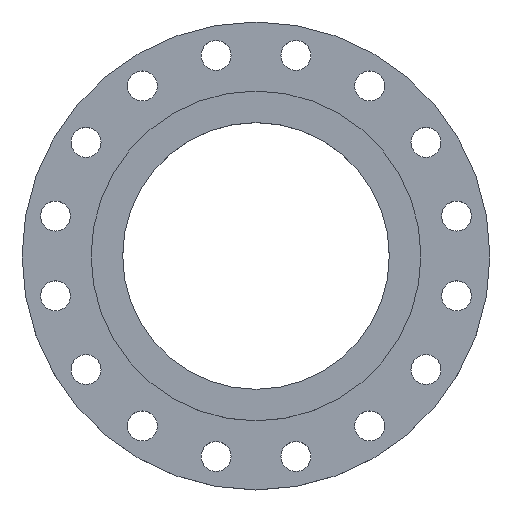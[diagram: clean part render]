
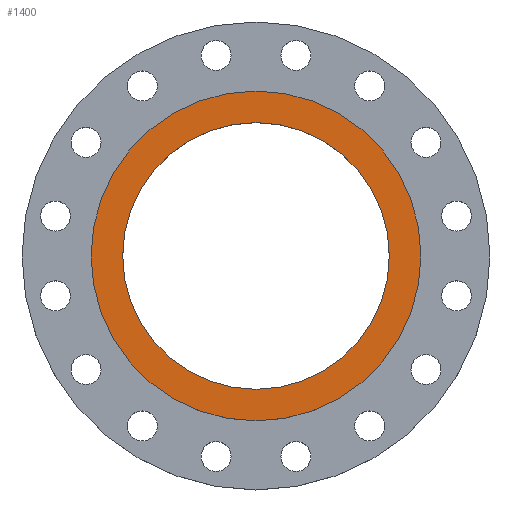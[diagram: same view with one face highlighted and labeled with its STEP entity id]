
A CAD part, top view. The second image highlights one B-rep face of the part: STEP entity #1400.
In plain terms, the highlighted planar face has unit normal (0, 0, 1).
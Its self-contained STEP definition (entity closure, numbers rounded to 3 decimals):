
#9 = AXIS2_PLACEMENT_3D ( 'NONE', #1588, #1587, #1585 ) ;
#19 = CARTESIAN_POINT ( 'NONE',  ( -181.5, 0., 0. ) ) ;
#22 = CARTESIAN_POINT ( 'NONE',  ( 181.5, 0., 0. ) ) ;
#76 = CARTESIAN_POINT ( 'NONE',  ( 146.752, 0., 0. ) ) ;
#108 = CARTESIAN_POINT ( 'NONE',  ( -146.752, 0., 0. ) ) ;
#238 = VERTEX_POINT ( 'NONE', #108 ) ;
#307 = VERTEX_POINT ( 'NONE', #76 ) ;
#397 = VERTEX_POINT ( 'NONE', #22 ) ;
#417 = CIRCLE ( 'NONE', #1315, 146.752 ) ;
#431 = VERTEX_POINT ( 'NONE', #19 ) ;
#514 = EDGE_CURVE ( 'NONE', #397, #431, #732, .T. ) ;
#531 = EDGE_LOOP ( 'NONE', ( #1387, #1392 ) ) ;
#543 = DIRECTION ( 'NONE',  ( 1., 0., 0. ) ) ;
#544 = DIRECTION ( 'NONE',  ( 0., 0., 1. ) ) ;
#546 = CARTESIAN_POINT ( 'NONE',  ( 0., 0., 0. ) ) ;
#548 = PLANE ( 'NONE',  #872 ) ;
#549 = FACE_OUTER_BOUND ( 'NONE', #531, .T. ) ;
#550 = FACE_BOUND ( 'NONE', #1384, .T. ) ;
#677 = DIRECTION ( 'NONE',  ( 1., 0., 0. ) ) ;
#679 = DIRECTION ( 'NONE',  ( 0., 0., 1. ) ) ;
#681 = CARTESIAN_POINT ( 'NONE',  ( 0., 0., 0. ) ) ;
#692 = AXIS2_PLACEMENT_3D ( 'NONE', #1309, #1307, #1306 ) ;
#705 = EDGE_CURVE ( 'NONE', #431, #397, #1361, .T. ) ;
#732 = CIRCLE ( 'NONE', #9, 181.5 ) ;
#816 = EDGE_CURVE ( 'NONE', #238, #307, #1185, .T. ) ;
#872 = AXIS2_PLACEMENT_3D ( 'NONE', #546, #544, #543 ) ;
#972 = DIRECTION ( 'NONE',  ( 1., 0., 0. ) ) ;
#973 = DIRECTION ( 'NONE',  ( 0., 0., 1. ) ) ;
#975 = CARTESIAN_POINT ( 'NONE',  ( 0., 0., 0. ) ) ;
#1172 = EDGE_CURVE ( 'NONE', #307, #238, #417, .T. ) ;
#1185 = CIRCLE ( 'NONE', #1447, 146.752 ) ;
#1306 = DIRECTION ( 'NONE',  ( -1., 0., 0. ) ) ;
#1307 = DIRECTION ( 'NONE',  ( 0., 0., -1. ) ) ;
#1309 = CARTESIAN_POINT ( 'NONE',  ( 0., 0., 0. ) ) ;
#1315 = AXIS2_PLACEMENT_3D ( 'NONE', #681, #679, #677 ) ;
#1361 = CIRCLE ( 'NONE', #692, 181.5 ) ;
#1379 = ORIENTED_EDGE ( 'NONE', *, *, #1172, .F. ) ;
#1384 = EDGE_LOOP ( 'NONE', ( #1379, #1386 ) ) ;
#1386 = ORIENTED_EDGE ( 'NONE', *, *, #816, .F. ) ;
#1387 = ORIENTED_EDGE ( 'NONE', *, *, #705, .F. ) ;
#1392 = ORIENTED_EDGE ( 'NONE', *, *, #514, .F. ) ;
#1400 = ADVANCED_FACE ( 'NONE', ( #550, #549 ), #548, .T. ) ;
#1447 = AXIS2_PLACEMENT_3D ( 'NONE', #975, #973, #972 ) ;
#1585 = DIRECTION ( 'NONE',  ( -1., 0., 0. ) ) ;
#1587 = DIRECTION ( 'NONE',  ( 0., 0., -1. ) ) ;
#1588 = CARTESIAN_POINT ( 'NONE',  ( 0., 0., 0. ) ) ;
